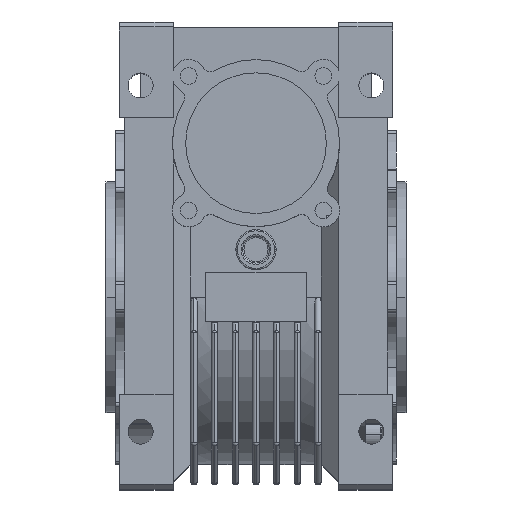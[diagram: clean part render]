
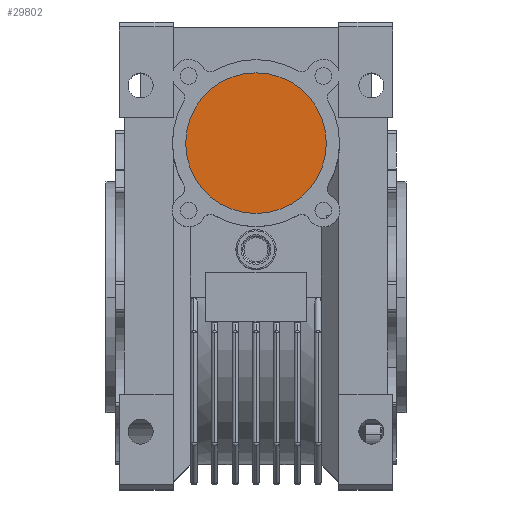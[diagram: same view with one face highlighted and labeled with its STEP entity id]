
A CAD part, top view. The second image highlights one B-rep face of the part: STEP entity #29802.
In plain terms, the highlighted planar face has unit normal (0, 0, 1).
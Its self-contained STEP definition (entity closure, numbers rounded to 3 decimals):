
#2036 = CARTESIAN_POINT ( 'NONE',  ( 0., 40., 49.57 ) ) ;
#2442 = DIRECTION ( 'NONE',  ( 1., 0., 0. ) ) ;
#3447 = ORIENTED_EDGE ( 'NONE', *, *, #16119, .T. ) ;
#4611 = PLANE ( 'NONE',  #9069 ) ;
#4770 = DIRECTION ( 'NONE',  ( 1., 0., 0. ) ) ;
#7417 = CARTESIAN_POINT ( 'NONE',  ( 0., 40., 49.57 ) ) ;
#7428 = EDGE_CURVE ( 'NONE', #15094, #32280, #22089, .T. ) ;
#9069 = AXIS2_PLACEMENT_3D ( 'NONE', #15423, #17727, #2442 ) ;
#10582 = CARTESIAN_POINT ( 'NONE',  ( -18.275, 40., 49.57 ) ) ;
#15094 = VERTEX_POINT ( 'NONE', #10582 ) ;
#15158 = DIRECTION ( 'NONE',  ( 1., 0., 0. ) ) ;
#15310 = CARTESIAN_POINT ( 'NONE',  ( 18.275, 40., 49.57 ) ) ;
#15423 = CARTESIAN_POINT ( 'NONE',  ( 0., 40., 49.57 ) ) ;
#15977 = AXIS2_PLACEMENT_3D ( 'NONE', #7417, #27525, #4770 ) ;
#16119 = EDGE_CURVE ( 'NONE', #32280, #15094, #24458, .T. ) ;
#16696 = EDGE_LOOP ( 'NONE', ( #30762, #3447 ) ) ;
#17138 = DIRECTION ( 'NONE',  ( 0., 0., 1. ) ) ;
#17727 = DIRECTION ( 'NONE',  ( 0., 0., 1. ) ) ;
#22089 = CIRCLE ( 'NONE', #27915, 18.275 ) ;
#24458 = CIRCLE ( 'NONE', #15977, 18.275 ) ;
#27359 = FACE_OUTER_BOUND ( 'NONE', #16696, .T. ) ;
#27525 = DIRECTION ( 'NONE',  ( 0., 0., 1. ) ) ;
#27915 = AXIS2_PLACEMENT_3D ( 'NONE', #2036, #17138, #15158 ) ;
#29802 = ADVANCED_FACE ( 'NONE', ( #27359 ), #4611, .T. ) ;
#30762 = ORIENTED_EDGE ( 'NONE', *, *, #7428, .T. ) ;
#32280 = VERTEX_POINT ( 'NONE', #15310 ) ;
